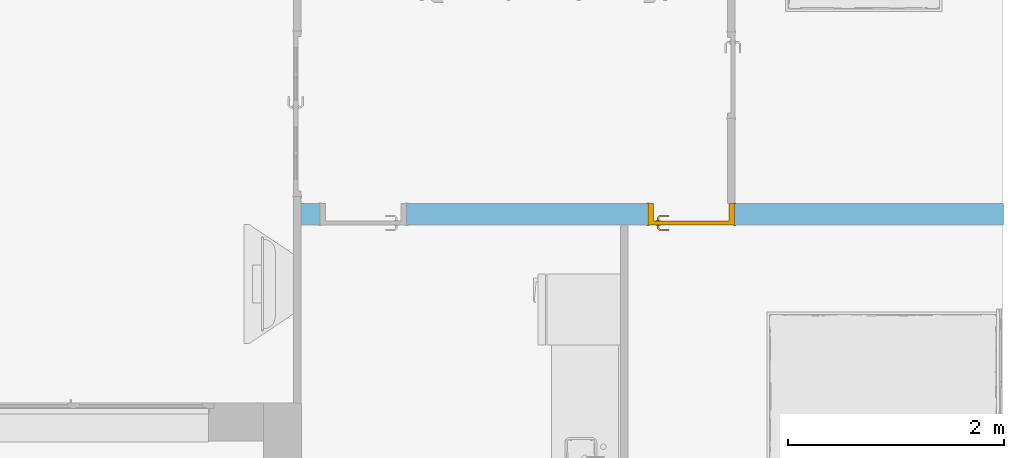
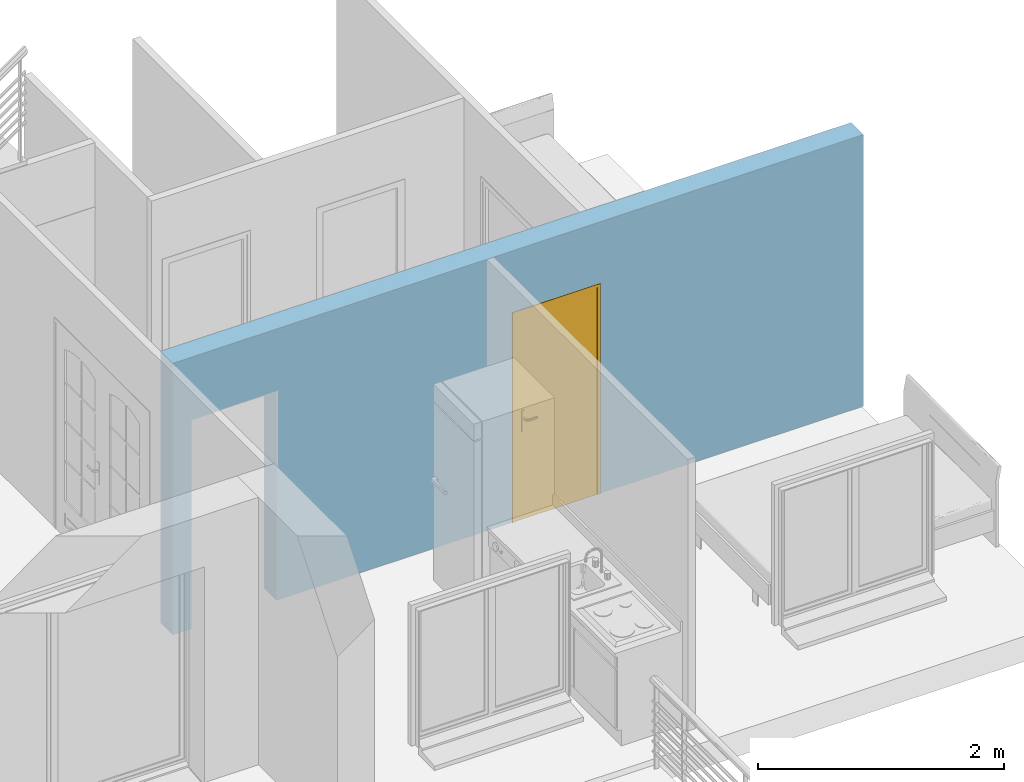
# One storey, part 9 of 15: 1 door, 2 openings, plus 1 element that does not belong to this part.
"""IFC2X3 building model written with IfcOpenShell, lengths in metres."""

from ifc_helpers import new_model, entity, si_unit, converted_unit, derived_unit, direction, frame, frame_2d, origin, place, context, subcontext, project, spatial, polyline, rectangle, extrude, clip, bounded_halfspace, faceted_brep, source, transform, mapped, material, material_list, layer, layer_set, layer_usage, type_object, type_shapes, element, fill, save


model = new_model("IFC2X3")

# Units and contexts
model_context = context("Model", 3, precision=1e-05, world=origin(), true_north=direction((6.12303176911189e-17, 1.0)))
body_context = subcontext(model_context, "Body", "Model", "MODEL_VIEW")
ifc_project = project(units=[si_unit("LENGTHUNIT", "METRE"), si_unit("AREAUNIT", "SQUARE_METRE"), si_unit("VOLUMEUNIT", "CUBIC_METRE"), converted_unit("PLANEANGLEUNIT", "DEGREE", entity("IfcRatioMeasure", 0.0174532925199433), si_unit("PLANEANGLEUNIT", "RADIAN"), dimensions=[0, 0, 0, 0, 0, 0, 0]), si_unit("MASSUNIT", "GRAM", prefix="KILO"), derived_unit("MASSDENSITYUNIT", [(si_unit("MASSUNIT", "GRAM", prefix="KILO"), 1), (si_unit("LENGTHUNIT", "METRE"), -3)]), derived_unit("MOMENTOFINERTIAUNIT", [(si_unit("LENGTHUNIT", "METRE"), 4)]), si_unit("TIMEUNIT", "SECOND"), si_unit("FREQUENCYUNIT", "HERTZ"), si_unit("THERMODYNAMICTEMPERATUREUNIT", "DEGREE_CELSIUS"), derived_unit("THERMALTRANSMITTANCEUNIT", [(si_unit("MASSUNIT", "GRAM", prefix="KILO"), 1), (si_unit("THERMODYNAMICTEMPERATUREUNIT", "KELVIN"), -1), (si_unit("TIMEUNIT", "SECOND"), -3)]), derived_unit("VOLUMETRICFLOWRATEUNIT", [(si_unit("LENGTHUNIT", "METRE"), 3), (si_unit("TIMEUNIT", "SECOND"), -1)]), si_unit("ELECTRICCURRENTUNIT", "AMPERE"), si_unit("ELECTRICVOLTAGEUNIT", "VOLT"), si_unit("POWERUNIT", "WATT"), si_unit("FORCEUNIT", "NEWTON", prefix="KILO"), si_unit("ILLUMINANCEUNIT", "LUX"), si_unit("LUMINOUSFLUXUNIT", "LUMEN"), si_unit("LUMINOUSINTENSITYUNIT", "CANDELA"), derived_unit("USERDEFINED", [(si_unit("MASSUNIT", "GRAM", prefix="KILO"), -1), (si_unit("LENGTHUNIT", "METRE"), -2), (si_unit("TIMEUNIT", "SECOND"), 3), (si_unit("LUMINOUSFLUXUNIT", "LUMEN"), 1)]), derived_unit("LINEARVELOCITYUNIT", [(si_unit("LENGTHUNIT", "METRE"), 1), (si_unit("TIMEUNIT", "SECOND"), -1)]), si_unit("PRESSUREUNIT", "PASCAL"), derived_unit("USERDEFINED", [(si_unit("LENGTHUNIT", "METRE"), -2), (si_unit("MASSUNIT", "GRAM", prefix="KILO"), 1), (si_unit("TIMEUNIT", "SECOND"), -2)]), derived_unit("LINEARFORCEUNIT", [(si_unit("MASSUNIT", "GRAM", prefix="KILO"), 1), (si_unit("LENGTHUNIT", "METRE"), 1), (si_unit("TIMEUNIT", "SECOND"), -2), (si_unit("LENGTHUNIT", "METRE"), -1)]), derived_unit("PLANARFORCEUNIT", [(si_unit("MASSUNIT", "GRAM", prefix="KILO"), 1), (si_unit("LENGTHUNIT", "METRE"), 1), (si_unit("TIMEUNIT", "SECOND"), -2), (si_unit("LENGTHUNIT", "METRE"), -2)])], contexts=[model_context])

# Site, building, storey
site_placement = place(None, origin())
site = spatial("IfcSite", under=ifc_project, at=site_placement, Name="Surface", CompositionType="ELEMENT")
building_placement = place(site_placement, origin())
building = spatial("IfcBuilding", under=site, at=building_placement, CompositionType="ELEMENT")
storey_placement = place(building_placement, frame((0.0, 0.0, 2.65)))
storey = spatial("IfcBuildingStorey", under=building, at=storey_placement, Name="Niveau étage", CompositionType="ELEMENT", Elevation=2.65)

# Wall, openings, door
ifc_material_1 = material(Name="Mur par défaut")
ifc_layer = layer(ifc_material_1, 0.2)
ifc_layer_set = layer_set([ifc_layer], Name="Mur de base:Générique - Ext. 200 mm")
ifc_layer_usage = layer_usage(ifc_layer_set, "AXIS2", "NEGATIVE", 0.1)
wall_type = type_object("IfcWallType", Name="Mur de base:Générique - Ext. 200 mm", PredefinedType="STANDARD", material=ifc_layer_set)
wall_placement = place(storey_placement, frame((5.95939607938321, 2.9542581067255, 0.0)))
wall = element("IfcWallStandardCase", 1, at=wall_placement, inside=storey, type_object=wall_type, material=ifc_layer_usage, Name="Mur de base:Générique - Ext. 200 mm", ObjectType="Mur de base:Générique - Ext. 200 mm", context=body_context, shape_type="Clipping", body=[
    clip(extrude(rectangle(XDim=6.495, YDim=0.2, at=frame_2d((3.2475, -7.63278329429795e-17), x_axis=(-1.0, 0.0))), origin(), (0.0, 0.0, 1.0), 2.7), bounded_halfspace(frame((0.0, -0.1, 2.7), z_axis=(0.0, 0.0, -1.0), x_axis=(-1.0, 0.0, 0.0)), True, frame((0.0, -0.1, 2.7)), polyline([(0.0, 0.0), (2.95, 0.0), (3.02, 0.0), (6.495, 0.0), (6.495, 0.2), (4.01, 0.2), (3.94, 0.2), (0.0, 0.2), (0.0, 0.0)]))),
])
opening_1_placement = place(wall_placement, frame((0.974999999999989, 0.0999999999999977, 0.0)))
element("IfcOpeningElement", 2, at=opening_1_placement, cuts=wall, Name="Int. Simple:PP (0.73m x 2.04m):1", ObjectType="Opening", context=body_context, shape_type="SweptSolid", body=[
    extrude(rectangle(XDim=2.075, YDim=0.799999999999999, at=frame_2d((1.0375, 0.4), x_axis=(1.0, 0.0))), frame((0.0, 0.0, 0.0), z_axis=(0.0, -1.0, 0.0), x_axis=(0.0, 0.0, 1.0)), (0.0, 0.0, 1.0), 0.2),
])
opening_2_placement = place(wall_placement, frame((4.00500000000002, 0.0999999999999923, 0.0)))
opening_2 = element("IfcOpeningElement", 3, at=opening_2_placement, cuts=wall, Name="Int. Simple:PP (0.73m x 2.04m):1", ObjectType="Opening", context=body_context, shape_type="SweptSolid", body=[
    extrude(rectangle(XDim=2.075, YDim=0.799999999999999, at=frame_2d((1.0375, 0.4), x_axis=(1.0, 0.0))), frame((0.0, 0.0, 0.0), z_axis=(0.0, -1.0, 0.0), x_axis=(0.0, 0.0, 1.0)), (0.0, 0.0, 1.0), 0.2),
])
ifc_material_2 = material(Name="Finition Peinture - Blanc satiné")
ifc_material_3 = material(Name="Bois - Panneau de porte")
ifc_material_4 = material(Name="Bois - Cadre de porte")
ifc_material_list_1 = material_list([ifc_material_2, ifc_material_3, ifc_material_4])
ifc_material_list_2 = material_list([ifc_material_2, ifc_material_4, ifc_material_3])
door_style = type_object("IfcDoorStyle", Name="Int. Simple:PP (0.73m x 2.04m)", ConstructionType="NOTDEFINED", OperationType="NOTDEFINED", ParameterTakesPrecedence=False, Sizeable=False, material=ifc_material_list_2)
shared_shape = source(origin(), body_context, "Body", "Brep", [
    faceted_brep([(0.105352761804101, -0.00500000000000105, 0.866003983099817), (0.115, -0.00500000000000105, 0.870000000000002), (0.114999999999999, -0.00500000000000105, 1.08), (0.1053527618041, -0.00500000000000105, 1.08399601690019), (0.0949999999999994, -0.00500000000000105, 1.08535898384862), (0.0846472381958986, -0.00500000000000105, 1.08399601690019), (0.0749999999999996, -0.00500000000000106, 1.08), (0.0750000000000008, -0.00500000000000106, 0.870000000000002), (0.0846472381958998, -0.00500000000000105, 0.866003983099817), (0.0950000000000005, -0.00500000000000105, 0.86464101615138), (0.1053527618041, 0.0, 1.08399601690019), (0.114999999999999, 0.0, 1.08), (0.115, 0.0, 0.870000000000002), (0.105352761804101, 0.0, 0.866003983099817), (0.0950000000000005, 0.0, 0.86464101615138), (0.0846472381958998, 0.0, 0.866003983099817), (0.0749999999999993, 0.0, 0.870000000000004), (0.0749999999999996, 0.0, 1.08), (0.0846472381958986, 0.0, 1.08399601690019), (0.0949999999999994, 0.0, 1.08535898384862)], [[[0, 1, 2, 3, 4, 5, 6, 7, 8, 9]], [[10, 11, 12, 13, 14, 15, 16, 17, 18, 19]], [[16, 15, 8, 7]], [[8, 15, 14, 9]], [[14, 13, 0, 9]], [[13, 12, 1, 0]], [[2, 1, 12, 11]], [[11, 10, 3, 2]], [[3, 10, 19, 4]], [[19, 18, 5, 4]], [[18, 17, 6, 5]], [[7, 6, 17, 16]]]),
    faceted_brep([(0.105352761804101, 0.0399999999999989, 0.866003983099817), (0.115, 0.0399999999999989, 0.870000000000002), (0.114999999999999, 0.0399999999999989, 1.08), (0.1053527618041, 0.0399999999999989, 1.08399601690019), (0.094999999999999, 0.0399999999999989, 1.08535898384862), (0.0846472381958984, 0.0399999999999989, 1.08399601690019), (0.0749999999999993, 0.0399999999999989, 1.08), (0.0750000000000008, 0.0399999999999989, 0.870000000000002), (0.0846472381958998, 0.0399999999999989, 0.866003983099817), (0.0950000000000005, 0.0399999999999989, 0.86464101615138), (0.1053527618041, 0.0449999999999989, 1.08399601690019), (0.114999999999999, 0.0449999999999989, 1.08), (0.115, 0.0449999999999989, 0.870000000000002), (0.105352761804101, 0.0449999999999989, 0.866003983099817), (0.0950000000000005, 0.0449999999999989, 0.86464101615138), (0.0846472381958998, 0.0449999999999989, 0.866003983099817), (0.0749999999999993, 0.0449999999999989, 0.870000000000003), (0.0749999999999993, 0.0449999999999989, 1.08), (0.0846472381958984, 0.0449999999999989, 1.08399601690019), (0.094999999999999, 0.0449999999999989, 1.08535898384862)], [[[0, 1, 2, 3, 4, 5, 6, 7, 8, 9]], [[10, 11, 12, 13, 14, 15, 16, 17, 18, 19]], [[11, 10, 3, 2]], [[3, 10, 19, 4]], [[19, 18, 5, 4]], [[18, 17, 6, 5]], [[7, 6, 17, 16]], [[16, 15, 8, 7]], [[8, 15, 14, 9]], [[14, 13, 0, 9]], [[13, 12, 1, 0]], [[2, 1, 12, 11]]]),
    faceted_brep([(0.0929747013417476, -0.00500000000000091, 1.00778044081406), (0.0970252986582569, -0.00500000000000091, 1.00778044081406), (0.101000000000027, -0.00500000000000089, 1.00699999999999), (0.101000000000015, -0.00500000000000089, 0.993000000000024), (0.0970252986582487, -0.00500000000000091, 0.992219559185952), (0.0929747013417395, -0.00500000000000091, 0.99221955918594), (0.0889999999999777, -0.00500000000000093, 0.992999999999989), (0.0889999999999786, -0.00500000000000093, 1.007), (0.0889999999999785, -0.0326509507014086, 1.007), (0.0929747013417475, -0.0310045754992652, 1.00778044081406), (0.109023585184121, -0.0470534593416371, 1.00778044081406), (0.110701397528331, -0.0430028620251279, 1.00778044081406), (0.0970252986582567, -0.0293267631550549, 1.00778044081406), (0.101000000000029, -0.0276803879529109, 1.007), (0.101000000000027, -0.0276803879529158, 0.993000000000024), (0.0970252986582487, -0.0293267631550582, 0.992219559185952), (0.110701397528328, -0.0430028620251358, 0.992219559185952), (0.109023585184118, -0.0470534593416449, 0.99221955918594), (0.0929747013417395, -0.0310045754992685, 0.99221955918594), (0.0889999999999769, -0.0326509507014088, 0.992999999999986), (0.107377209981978, -0.0510281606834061, 1.007), (0.112347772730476, -0.0390281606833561, 1.007), (0.112347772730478, -0.0390281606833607, 0.993000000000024), (0.107377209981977, -0.0510281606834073, 0.992999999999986), (0.195018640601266, -0.051028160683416, 0.992999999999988), (0.195018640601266, -0.0470534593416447, 0.99221955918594), (0.195018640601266, -0.0430028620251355, 0.992219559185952), (0.195018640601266, -0.0390281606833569, 0.993000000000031), (0.195018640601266, -0.0390281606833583, 1.007), (0.195018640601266, -0.0430028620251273, 1.00778044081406), (0.195018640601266, -0.0470534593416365, 1.00778044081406), (0.195018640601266, -0.0510281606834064, 1.00699999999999), (0.147307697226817, -0.0510281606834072, 1.007), (0.152860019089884, -0.045028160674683, 1.0078786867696), (0.15368320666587, -0.039028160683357, 1.007), (0.153683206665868, -0.0390281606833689, 0.993000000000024), (0.152860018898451, -0.0450281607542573, 0.992121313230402), (0.147307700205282, -0.0510281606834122, 0.992999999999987)], [[[0, 1, 2, 3, 4, 5, 6, 7]], [[8, 9, 0, 7]], [[9, 10, 11, 12, 1, 0]], [[12, 13, 2, 1]], [[3, 2, 13, 14]], [[14, 15, 4, 3]], [[15, 16, 17, 18, 5, 4]], [[18, 19, 6, 5]], [[7, 6, 19, 8]], [[20, 10, 9, 8]], [[11, 21, 13, 12]], [[14, 13, 21, 22]], [[22, 16, 15, 14]], [[17, 23, 19, 18]], [[8, 19, 23, 20]], [[24, 25, 26, 27, 28, 29, 30, 31]], [[32, 30, 33]], [[31, 30, 32]], [[10, 20, 32]], [[33, 34, 11]], [[21, 11, 34]], [[34, 29, 28]], [[30, 29, 33]], [[29, 34, 33]], [[10, 32, 33]], [[10, 33, 11]], [[22, 21, 34, 28, 27, 35]], [[35, 26, 36]], [[37, 36, 25]], [[22, 35, 16]], [[35, 27, 26]], [[24, 37, 25]], [[23, 17, 37]], [[37, 17, 36]], [[17, 16, 36]], [[16, 35, 36]], [[25, 36, 26]], [[20, 23, 37, 24, 31, 32]]]),
    faceted_brep([(0.0929747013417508, 0.0449999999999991, 1.00778044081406), (0.0889999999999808, 0.044999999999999, 1.007), (0.0889999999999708, 0.044999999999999, 0.992999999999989), (0.0929747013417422, 0.0449999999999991, 0.99221955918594), (0.0970252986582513, 0.0449999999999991, 0.992219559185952), (0.10100000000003, 0.0449999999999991, 0.993000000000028), (0.101000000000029, 0.0449999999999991, 1.007), (0.0970252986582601, 0.0449999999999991, 1.00778044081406), (0.10100000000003, 0.067485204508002, 0.993000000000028), (0.10100000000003, 0.0674852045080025, 1.007), (0.0970252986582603, 0.0691315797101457, 1.00778044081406), (0.110838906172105, 0.0829451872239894, 1.00778044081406), (0.109161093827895, 0.0869957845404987, 1.00778044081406), (0.092974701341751, 0.070809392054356, 1.00778044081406), (0.0889999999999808, 0.0724557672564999, 1.007), (0.0889999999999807, 0.072455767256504, 0.992999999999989), (0.0929747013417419, 0.0708093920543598, 0.99221955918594), (0.109161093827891, 0.0869957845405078, 0.99221955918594), (0.110838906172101, 0.0829451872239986, 0.992219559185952), (0.0970252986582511, 0.0691315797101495, 0.992219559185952), (0.112485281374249, 0.0789704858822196, 0.993000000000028), (0.112485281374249, 0.0789704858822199, 1.007), (0.107514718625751, 0.0909704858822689, 1.007), (0.107514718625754, 0.090970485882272, 0.992999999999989), (0.195045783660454, 0.0789704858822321, 0.993000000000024), (0.195045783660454, 0.0829451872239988, 0.992219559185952), (0.195045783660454, 0.086995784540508, 0.99221955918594), (0.195045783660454, 0.0909704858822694, 0.992999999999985), (0.195045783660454, 0.0909704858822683, 1.007), (0.195045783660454, 0.0869957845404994, 1.00778044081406), (0.195045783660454, 0.0829451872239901, 1.00778044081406), (0.195045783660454, 0.0789704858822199, 1.007), (0.153765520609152, 0.0789704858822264, 0.993000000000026), (0.153765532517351, 0.0789704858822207, 1.007), (0.152942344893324, 0.0849704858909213, 1.0078786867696), (0.147445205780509, 0.0909704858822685, 1.007), (0.147445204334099, 0.0909704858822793, 0.992999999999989), (0.152942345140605, 0.0849704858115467, 0.992121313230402)], [[[0, 1, 2, 3, 4, 5, 6, 7]], [[6, 5, 8, 9]], [[9, 10, 7, 6]], [[10, 11, 12, 13, 0, 7]], [[13, 14, 1, 0]], [[2, 1, 14, 15]], [[15, 16, 3, 2]], [[16, 17, 18, 19, 4, 3]], [[19, 8, 5, 4]], [[9, 8, 20, 21]], [[21, 11, 10, 9]], [[12, 22, 14, 13]], [[15, 14, 22, 23]], [[23, 17, 16, 15]], [[18, 20, 8, 19]], [[24, 25, 26, 27, 28, 29, 30, 31]], [[21, 20, 32, 24, 31, 33]], [[33, 30, 34]], [[35, 34, 29]], [[21, 33, 11]], [[33, 31, 30]], [[28, 35, 29]], [[22, 12, 35]], [[35, 12, 34]], [[12, 11, 34]], [[11, 33, 34]], [[29, 34, 30]], [[22, 35, 28, 27, 36, 23]], [[36, 26, 37]], [[27, 26, 36]], [[17, 23, 36]], [[37, 32, 18]], [[20, 18, 32]], [[32, 25, 24]], [[26, 25, 37]], [[25, 32, 37]], [[17, 36, 37]], [[17, 37, 18]]]),
    faceted_brep([(0.0349999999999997, 0.04, 2.04), (0.765, 0.04, 2.04), (0.765, 0.04, 0.0), (0.0349999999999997, 0.04, 0.0), (0.0349999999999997, 0.0, 2.04), (0.0349999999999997, 0.0, 0.0), (0.765, 0.0, 0.0), (0.765, 0.0, 2.04)], [[[0, 1, 2, 3]], [[4, 5, 6, 7]], [[1, 0, 4, 7]], [[2, 1, 7, 6]], [[3, 2, 6, 5]], [[0, 3, 5, 4]]]),
    faceted_brep([(0.0, 0.0, 0.0), (0.0, 0.200000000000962, 0.0), (0.0499999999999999, 0.200000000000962, 0.0), (0.0499999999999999, 0.040000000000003, 0.0), (0.0349999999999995, 0.040000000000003, 0.0), (0.0349999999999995, 0.0, 0.0), (0.0, 0.0, 2.07500000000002), (0.0, 0.200000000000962, 2.07500000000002), (0.800000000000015, 0.200000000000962, 2.07500000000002), (0.800000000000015, 0.200000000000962, 0.0), (0.75, 0.200000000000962, 0.0), (0.75, 0.200000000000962, 2.025), (0.05, 0.200000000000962, 2.025), (0.05, 0.040000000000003, 2.025), (0.75, 0.040000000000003, 2.025), (0.75, 0.040000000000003, 0.0), (0.765, 0.040000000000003, 0.0), (0.765, 0.040000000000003, 2.04), (0.0349999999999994, 0.040000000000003, 2.04), (0.0349999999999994, 0.0, 2.04), (0.765, 0.0, 2.04), (0.765, 0.0, 0.0), (0.800000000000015, 0.0, 0.0), (0.800000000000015, 0.0, 2.07500000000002)], [[[0, 1, 2, 3, 4, 5]], [[1, 0, 6, 7]], [[2, 1, 7, 8, 9, 10, 11, 12]], [[3, 2, 12, 13]], [[4, 3, 13, 14, 15, 16, 17, 18]], [[5, 4, 18, 19]], [[0, 5, 19, 20, 21, 22, 23, 6]], [[8, 23, 22, 9]], [[22, 21, 16, 15, 10, 9]], [[14, 11, 10, 15]], [[20, 17, 16, 21]], [[7, 6, 23, 8]], [[13, 12, 11, 14]], [[19, 18, 17, 20]]]),
    faceted_brep([(0.0149999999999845, 0.200000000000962, 0.0), (-0.0150000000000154, 0.200000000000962, 0.0), (-0.0150000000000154, 0.205000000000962, 0.0), (0.0149999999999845, 0.205000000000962, 0.0), (0.0149999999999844, 0.200000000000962, 2.06000000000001), (0.784999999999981, 0.200000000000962, 2.06000000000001), (0.78499999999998, 0.200000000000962, 0.0), (0.81499999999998, 0.200000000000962, 0.0), (0.81499999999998, 0.200000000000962, 2.09000000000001), (-0.0150000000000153, 0.200000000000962, 2.09000000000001), (-0.0150000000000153, 0.205000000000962, 2.09000000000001), (0.814999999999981, 0.205000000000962, 2.09000000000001), (0.814999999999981, 0.205000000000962, 0.0), (0.784999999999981, 0.205000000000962, 0.0), (0.784999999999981, 0.205000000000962, 2.06000000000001), (0.0149999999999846, 0.205000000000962, 2.06000000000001)], [[[0, 1, 2, 3]], [[1, 0, 4, 5, 6, 7, 8, 9]], [[2, 1, 9, 10]], [[3, 2, 10, 11, 12, 13, 14, 15]], [[0, 3, 15, 4]], [[6, 13, 12, 7]], [[5, 14, 13, 6]], [[11, 8, 7, 12]], [[10, 9, 8, 11]], [[4, 15, 14, 5]]]),
    faceted_brep([(-0.0150000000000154, -0.00500000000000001, 0.0), (0.0149999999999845, -0.00500000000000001, 0.0), (0.0149999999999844, -0.00500000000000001, 2.06000000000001), (0.784999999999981, -0.00500000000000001, 2.06000000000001), (0.78499999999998, -0.00500000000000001, 0.0), (0.81499999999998, -0.00500000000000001, 0.0), (0.81499999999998, -0.00500000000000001, 2.09000000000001), (-0.0150000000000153, -0.00500000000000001, 2.09000000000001), (-0.0150000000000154, 0.0, 0.0), (-0.0150000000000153, 0.0, 2.09000000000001), (0.0149999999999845, 0.0, 0.0), (0.814999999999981, 0.0, 2.09000000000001), (0.814999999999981, 0.0, 0.0), (0.784999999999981, 0.0, 0.0), (0.784999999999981, 0.0, 2.06000000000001), (0.0149999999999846, 0.0, 2.06000000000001)], [[[0, 1, 2, 3, 4, 5, 6, 7]], [[8, 0, 7, 9]], [[10, 8, 9, 11, 12, 13, 14, 15]], [[1, 10, 15, 2]], [[3, 14, 13, 4]], [[11, 6, 5, 12]], [[9, 7, 6, 11]], [[2, 15, 14, 3]], [[4, 13, 12, 5]], [[1, 0, 8, 10]]]),
])
type_shapes(door_style, [shared_shape])
door_placement = place(opening_2_placement, frame((-0.800000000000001, -0.199999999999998, 0.0)))
door = element("IfcDoor", 4, at=door_placement, inside=storey, type_object=door_style, material=ifc_material_list_1, Name="Int. Simple:PP (0.73m x 2.04m)", ObjectType="Int. Simple:PP (0.73m x 2.04m)", OverallHeight=2.075, OverallWidth=0.8, context=body_context, shape_type="MappedRepresentation", body=[
    mapped(shared_shape, transform((0.0, 0.0, 0.0), scale=1.0)),
])
fill(opening_2, door)

save(model, "model.ifc")
